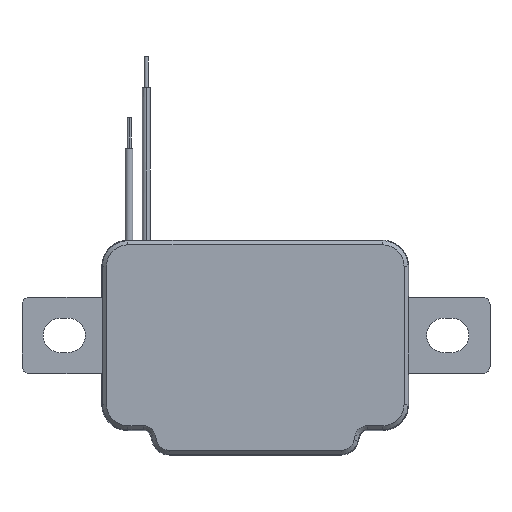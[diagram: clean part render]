
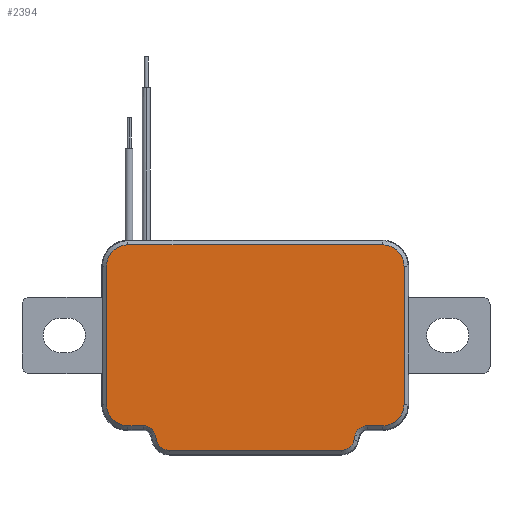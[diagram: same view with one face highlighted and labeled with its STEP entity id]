
A CAD part, top view. The second image highlights one B-rep face of the part: STEP entity #2394.
In plain terms, the highlighted planar face has unit normal (0, 0, 1).
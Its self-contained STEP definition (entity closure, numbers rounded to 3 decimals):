
#1801=CARTESIAN_POINT('',(-22.2,9.,4.9));
#1802=DIRECTION('',(0.,0.,-1.));
#1803=DIRECTION('',(-1.,0.,0.));
#1804=AXIS2_PLACEMENT_3D('',#1801,#1802,#1803);
#1806=DIRECTION('',(1.,0.,0.));
#1807=VECTOR('',#1806,33.2);
#1808=CARTESIAN_POINT('',(-22.2,11.792,4.9));
#1809=LINE('',#1808,#1807);
#1810=CARTESIAN_POINT('',(11.,9.,4.9));
#1811=DIRECTION('',(0.,0.,-1.));
#1812=DIRECTION('',(0.,1.,0.));
#1813=AXIS2_PLACEMENT_3D('',#1810,#1811,#1812);
#1815=DIRECTION('',(0.,-1.,0.));
#1816=VECTOR('',#1815,18.);
#1817=CARTESIAN_POINT('',(13.792,9.,4.9));
#1818=LINE('',#1817,#1816);
#1819=CARTESIAN_POINT('',(11.,-9.,4.9));
#1820=DIRECTION('',(0.,0.,-1.));
#1821=DIRECTION('',(1.,0.,0.));
#1822=AXIS2_PLACEMENT_3D('',#1819,#1820,#1821);
#1824=DIRECTION('',(-1.,0.,0.));
#1825=VECTOR('',#1824,2.02);
#1826=CARTESIAN_POINT('',(11.,-11.792,4.9));
#1827=LINE('',#1826,#1825);
#1828=CARTESIAN_POINT('',(8.98,-13.4,4.9));
#1829=DIRECTION('',(0.,0.,1.));
#1830=DIRECTION('',(0.,1.,0.));
#1831=AXIS2_PLACEMENT_3D('',#1828,#1829,#1830);
#1833=DIRECTION('',(-0.232,-0.973,0.));
#1834=VECTOR('',#1833,0.683);
#1835=CARTESIAN_POINT('',(7.415,-13.028,4.9));
#1836=LINE('',#1835,#1834);
#1837=CARTESIAN_POINT('',(5.611,-13.3,4.9));
#1838=DIRECTION('',(0.,0.,-1.));
#1839=DIRECTION('',(0.973,-0.232,0.));
#1840=AXIS2_PLACEMENT_3D('',#1837,#1838,#1839);
#1842=DIRECTION('',(-1.,0.,0.));
#1843=VECTOR('',#1842,22.423);
#1844=CARTESIAN_POINT('',(5.611,-14.992,4.9));
#1845=LINE('',#1844,#1843);
#1846=CARTESIAN_POINT('',(-16.811,-13.3,4.9));
#1847=DIRECTION('',(0.,0.,-1.));
#1848=DIRECTION('',(0.,-1.,0.));
#1849=AXIS2_PLACEMENT_3D('',#1846,#1847,#1848);
#1851=DIRECTION('',(-0.232,0.973,0.));
#1852=VECTOR('',#1851,0.683);
#1853=CARTESIAN_POINT('',(-18.457,-13.692,
4.9));
#1854=LINE('',#1853,#1852);
#1855=CARTESIAN_POINT('',(-20.18,-13.4,4.9));
#1856=DIRECTION('',(0.,0.,1.));
#1857=DIRECTION('',(0.973,0.232,0.));
#1858=AXIS2_PLACEMENT_3D('',#1855,#1856,#1857);
#1860=DIRECTION('',(-1.,0.,0.));
#1861=VECTOR('',#1860,2.02);
#1862=CARTESIAN_POINT('',(-20.18,-11.792,
4.9));
#1863=LINE('',#1862,#1861);
#1864=CARTESIAN_POINT('',(-22.2,-9.,4.9));
#1865=DIRECTION('',(0.,0.,-1.));
#1866=DIRECTION('',(0.,-1.,0.));
#1867=AXIS2_PLACEMENT_3D('',#1864,#1865,#1866);
#1869=DIRECTION('',(0.,1.,0.));
#1870=VECTOR('',#1869,18.);
#1871=CARTESIAN_POINT('',(-24.992,-9.,
4.9));
#1872=LINE('',#1871,#1870);
#2291=CARTESIAN_POINT('',(-24.992,9.,4.9));
#2292=CARTESIAN_POINT('',(-22.2,11.792,4.9));
#2293=VERTEX_POINT('',#2291);
#2294=VERTEX_POINT('',#2292);
#2295=CARTESIAN_POINT('',(11.,11.792,4.9));
#2296=VERTEX_POINT('',#2295);
#2297=CARTESIAN_POINT('',(13.792,9.,4.9));
#2298=VERTEX_POINT('',#2297);
#2299=CARTESIAN_POINT('',(13.792,-9.,4.9));
#2300=VERTEX_POINT('',#2299);
#2301=CARTESIAN_POINT('',(11.,-11.792,4.9));
#2302=VERTEX_POINT('',#2301);
#2303=CARTESIAN_POINT('',(8.98,-11.792,4.9));
#2304=VERTEX_POINT('',#2303);
#2305=CARTESIAN_POINT('',(7.415,-13.028,4.9));
#2306=VERTEX_POINT('',#2305);
#2307=CARTESIAN_POINT('',(7.257,-13.692,4.9));
#2308=VERTEX_POINT('',#2307);
#2309=CARTESIAN_POINT('',(5.611,-14.992,4.9));
#2310=VERTEX_POINT('',#2309);
#2311=CARTESIAN_POINT('',(-16.811,-14.992,
4.9));
#2312=VERTEX_POINT('',#2311);
#2313=CARTESIAN_POINT('',(-18.457,-13.692,4.9));
#2314=VERTEX_POINT('',#2313);
#2315=CARTESIAN_POINT('',(-18.615,-13.028,
4.9));
#2316=VERTEX_POINT('',#2315);
#2317=CARTESIAN_POINT('',(-20.18,-11.792,4.9));
#2318=VERTEX_POINT('',#2317);
#2319=CARTESIAN_POINT('',(-22.2,-11.792,
4.9));
#2320=VERTEX_POINT('',#2319);
#2321=CARTESIAN_POINT('',(-24.992,-9.,4.9));
#2322=VERTEX_POINT('',#2321);
#2355=CARTESIAN_POINT('',(-4.05,0.,4.9));
#2356=DIRECTION('',(0.,0.,1.));
#2357=DIRECTION('',(1.,0.,0.));
#2358=AXIS2_PLACEMENT_3D('',#2355,#2356,#2357);
#2359=PLANE('',#2358);
#2361=ORIENTED_EDGE('',*,*,#2360,.T.);
#2363=ORIENTED_EDGE('',*,*,#2362,.T.);
#2365=ORIENTED_EDGE('',*,*,#2364,.T.);
#2367=ORIENTED_EDGE('',*,*,#2366,.T.);
#2369=ORIENTED_EDGE('',*,*,#2368,.T.);
#2371=ORIENTED_EDGE('',*,*,#2370,.T.);
#2373=ORIENTED_EDGE('',*,*,#2372,.T.);
#2375=ORIENTED_EDGE('',*,*,#2374,.T.);
#2377=ORIENTED_EDGE('',*,*,#2376,.T.);
#2379=ORIENTED_EDGE('',*,*,#2378,.T.);
#2381=ORIENTED_EDGE('',*,*,#2380,.T.);
#2383=ORIENTED_EDGE('',*,*,#2382,.T.);
#2385=ORIENTED_EDGE('',*,*,#2384,.T.);
#2387=ORIENTED_EDGE('',*,*,#2386,.T.);
#2389=ORIENTED_EDGE('',*,*,#2388,.T.);
#2391=ORIENTED_EDGE('',*,*,#2390,.T.);
#2392=EDGE_LOOP('',(#2361,#2363,#2365,#2367,#2369,#2371,#2373,#2375,#2377,#2379,
#2381,#2383,#2385,#2387,#2389,#2391));
#2393=FACE_OUTER_BOUND('',#2392,.F.);
#2394=ADVANCED_FACE('',(#2393),#2359,.T.);
#1805=CIRCLE('',#1804,2.792);
#1814=CIRCLE('',#1813,2.792);
#1823=CIRCLE('',#1822,2.792);
#1832=CIRCLE('',#1831,1.608);
#1841=CIRCLE('',#1840,1.692);
#1850=CIRCLE('',#1849,1.692);
#1859=CIRCLE('',#1858,1.608);
#1868=CIRCLE('',#1867,2.792);
#2360=EDGE_CURVE('',#2293,#2294,#1805,.T.);
#2362=EDGE_CURVE('',#2294,#2296,#1809,.T.);
#2364=EDGE_CURVE('',#2296,#2298,#1814,.T.);
#2366=EDGE_CURVE('',#2298,#2300,#1818,.T.);
#2368=EDGE_CURVE('',#2300,#2302,#1823,.T.);
#2370=EDGE_CURVE('',#2302,#2304,#1827,.T.);
#2372=EDGE_CURVE('',#2304,#2306,#1832,.T.);
#2374=EDGE_CURVE('',#2306,#2308,#1836,.T.);
#2376=EDGE_CURVE('',#2308,#2310,#1841,.T.);
#2378=EDGE_CURVE('',#2310,#2312,#1845,.T.);
#2380=EDGE_CURVE('',#2312,#2314,#1850,.T.);
#2382=EDGE_CURVE('',#2314,#2316,#1854,.T.);
#2384=EDGE_CURVE('',#2316,#2318,#1859,.T.);
#2386=EDGE_CURVE('',#2318,#2320,#1863,.T.);
#2388=EDGE_CURVE('',#2320,#2322,#1868,.T.);
#2390=EDGE_CURVE('',#2322,#2293,#1872,.T.);
